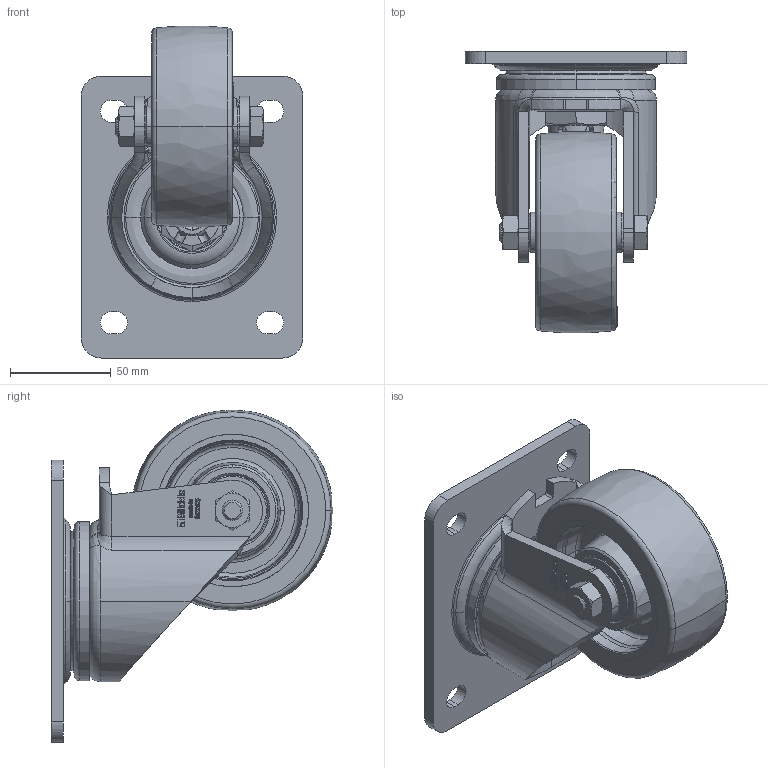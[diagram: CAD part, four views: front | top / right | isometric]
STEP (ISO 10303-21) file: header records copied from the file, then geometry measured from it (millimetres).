
FILE_DESCRIPTION (( 'STEP AP214' ), '1' );
FILE_NAME ('LH-GTH_100K-3_635656-214.step', '2022-01-01T10:06:49', ( '' ), ( '' ), 'SwSTEP 2.0', 'SolidWorks 2018', '' );
FILE_SCHEMA (( 'AUTOMOTIVE_DESIGN' ));
Length unit declared in the file: millimetre
Products named in the file (5): GH-LH_80-100_GH-LH-100x45-03_15x40; LH-GTH_100K-3_635656-214; GTH_3D_G16_GTH_100_15K_266312; GH-LH-100x45-03_15x40_G16_3D; GTH_100_15K_G16_3D
Assembly tree (4 placements, depth 3):
  LH-GTH_100K-3_635656-214
    GH-LH_80-100_GH-LH-100x45-03_15x40
      GH-LH-100x45-03_15x40_G16_3D
    GTH_3D_G16_GTH_100_15K_266312
      GTH_100_15K_G16_3D
Bounding box: 110 x 139.88 x 164.88 mm (x, y, z)
Volume: 473438.6 mm3; surface area: 124464.9 mm2
Topology: 2 solids, 5 shells, 1814 faces, 4830 edges, 3148 vertices
Faces by surface type: plane 809, bspline 660, cylinder 123, cone 118, torus 104
Entity records: 70255 total; most frequent: CARTESIAN_POINT 25731, ORIENTED_EDGE 9656, DIRECTION 6134, EDGE_CURVE 4828, VERTEX_POINT 3148, LINE 2594, VECTOR 2594, EDGE_LOOP 1968
